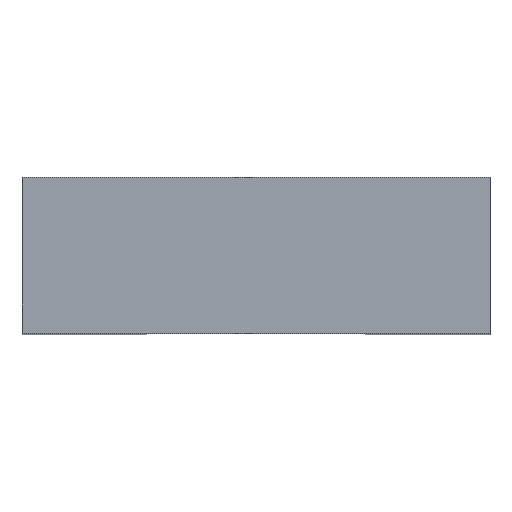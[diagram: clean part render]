
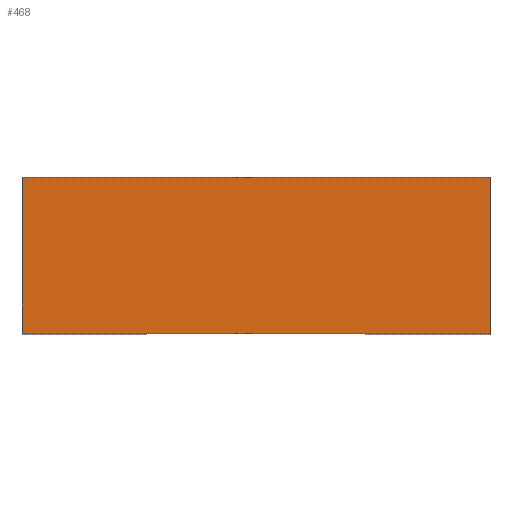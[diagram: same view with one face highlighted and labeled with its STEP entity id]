
A CAD part, top view. The second image highlights one B-rep face of the part: STEP entity #468.
In plain terms, the highlighted planar face has unit normal (0, 0, 1).
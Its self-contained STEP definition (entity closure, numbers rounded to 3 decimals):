
#29=PLANE('',#522);
#70=FACE_OUTER_BOUND('',#98,.T.);
#98=EDGE_LOOP('',(#433,#434,#435,#436));
#135=LINE('',#797,#173);
#141=LINE('',#808,#179);
#147=LINE('',#850,#185);
#148=LINE('',#852,#186);
#173=VECTOR('',#601,10.);
#179=VECTOR('',#611,10.);
#185=VECTOR('',#637,10.);
#186=VECTOR('',#640,10.);
#230=VERTEX_POINT('',#794);
#231=VERTEX_POINT('',#796);
#233=VERTEX_POINT('',#805);
#234=VERTEX_POINT('',#807);
#285=EDGE_CURVE('',#231,#230,#135,.T.);
#291=EDGE_CURVE('',#234,#233,#141,.T.);
#303=EDGE_CURVE('',#233,#231,#147,.T.);
#304=EDGE_CURVE('',#230,#234,#148,.T.);
#433=ORIENTED_EDGE('',*,*,#285,.T.);
#434=ORIENTED_EDGE('',*,*,#304,.T.);
#435=ORIENTED_EDGE('',*,*,#291,.T.);
#436=ORIENTED_EDGE('',*,*,#303,.T.);
#468=ADVANCED_FACE('',(#70),#29,.T.);
#522=AXIS2_PLACEMENT_3D('',#853,#641,#642);
#601=DIRECTION('',(-1.,0.,0.));
#611=DIRECTION('',(1.,0.,0.));
#637=DIRECTION('',(0.,1.,0.));
#640=DIRECTION('',(0.,-1.,0.));
#641=DIRECTION('center_axis',(0.,0.,1.));
#642=DIRECTION('ref_axis',(1.,0.,0.));
#794=CARTESIAN_POINT('',(-7.5,2.5,55.));
#796=CARTESIAN_POINT('',(7.5,2.5,55.));
#797=CARTESIAN_POINT('',(-7.5,2.5,55.));
#805=CARTESIAN_POINT('',(7.5,-2.5,55.));
#807=CARTESIAN_POINT('',(-7.5,-2.5,55.));
#808=CARTESIAN_POINT('',(7.5,-2.5,55.));
#850=CARTESIAN_POINT('',(7.5,2.5,55.));
#852=CARTESIAN_POINT('',(-7.5,-2.5,55.));
#853=CARTESIAN_POINT('Origin',(0.,0.,
55.));
